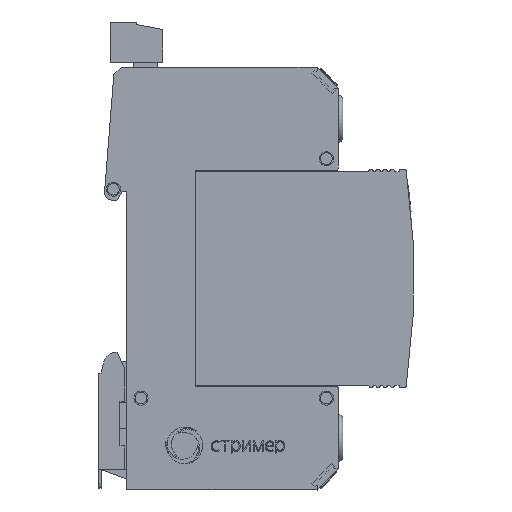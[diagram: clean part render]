
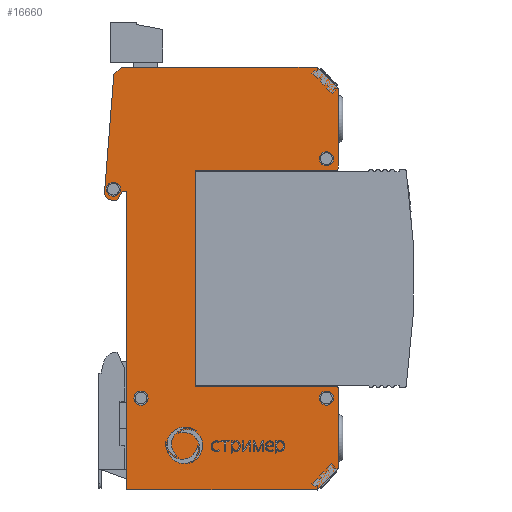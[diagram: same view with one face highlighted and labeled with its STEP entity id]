
A CAD part, front view. The second image highlights one B-rep face of the part: STEP entity #16660.
In plain terms, the highlighted planar face has unit normal (0, -1, 0).
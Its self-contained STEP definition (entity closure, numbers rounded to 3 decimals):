
#14860=CARTESIAN_POINT('',(-14.5,-9.,-45.));
#14861=VERTEX_POINT('',#14860);
#14862=CARTESIAN_POINT('',(26.,-9.,-45.));
#14863=VERTEX_POINT('',#14862);
#14864=CARTESIAN_POINT('',(-14.5,-9.,-45.));
#14865=DIRECTION('',(1.,0.,-0.));
#14866=VECTOR('',#14865,40.5);
#14867=LINE('',#14864,#14866);
#14868=EDGE_CURVE('',#14861,#14863,#14867,.T.);
#15530=CARTESIAN_POINT('',(-14.5,-9.,18.5));
#15531=VERTEX_POINT('',#15530);
#15532=CARTESIAN_POINT('',(-14.5,-9.,18.5));
#15533=DIRECTION('',(0.,0.,-1.));
#15534=VECTOR('',#15533,63.5);
#15535=LINE('',#15532,#15534);
#15536=EDGE_CURVE('',#15531,#14861,#15535,.T.);
#15731=CARTESIAN_POINT('',(-15.5,-9.,45.));
#15732=VERTEX_POINT('',#15731);
#15733=CARTESIAN_POINT('',(-17.29,-9.,43.498));
#15734=VERTEX_POINT('',#15733);
#15735=CARTESIAN_POINT('',(-15.5,-9.,45.));
#15736=DIRECTION('',(-0.766,0.,-0.643));
#15737=VECTOR('',#15736,2.337);
#15738=LINE('',#15735,#15737);
#15739=EDGE_CURVE('',#15732,#15734,#15738,.T.);
#15771=CARTESIAN_POINT('',(-19.273,-9.,18.306));
#15772=VERTEX_POINT('',#15771);
#15773=CARTESIAN_POINT('',(-17.29,-9.,43.498));
#15774=DIRECTION('',(-0.078,0.,-0.997));
#15775=VECTOR('',#15774,25.27);
#15776=LINE('',#15773,#15775);
#15777=EDGE_CURVE('',#15734,#15772,#15776,.T.);
#15802=CARTESIAN_POINT('',(-17.999,-9.,16.704));
#15803=VERTEX_POINT('',#15802);
#15804=CARTESIAN_POINT('',(-17.777,-9.,18.188));
#15805=DIRECTION('',(0.,-1.,0.));
#15806=DIRECTION('',(0.,0.,1.));
#15807=AXIS2_PLACEMENT_3D('',#15804,#15805,#15806);
#15808=CIRCLE('',#15807,1.5);
#15809=EDGE_CURVE('',#15772,#15803,#15808,.T.);
#15835=CARTESIAN_POINT('',(-16.632,-9.,16.5));
#15836=VERTEX_POINT('',#15835);
#15837=CARTESIAN_POINT('',(-17.999,-9.,16.704));
#15838=DIRECTION('',(0.989,0.,-0.148));
#15839=VECTOR('',#15838,1.383);
#15840=LINE('',#15837,#15839);
#15841=EDGE_CURVE('',#15803,#15836,#15840,.T.);
#15866=CARTESIAN_POINT('',(-15.5,-9.,18.5));
#15867=VERTEX_POINT('',#15866);
#15868=CARTESIAN_POINT('',(-16.632,-9.,16.5));
#15869=DIRECTION('',(0.492,0.,0.87));
#15870=VECTOR('',#15869,2.298);
#15871=LINE('',#15868,#15870);
#15872=EDGE_CURVE('',#15836,#15867,#15871,.T.);
#15897=CARTESIAN_POINT('',(-15.5,-9.,18.5));
#15898=DIRECTION('',(1.,0.,0.));
#15899=VECTOR('',#15898,1.);
#15900=LINE('',#15897,#15899);
#15901=EDGE_CURVE('',#15867,#15531,#15900,.T.);
#15919=CARTESIAN_POINT('',(30.5,-9.,-40.5));
#15920=VERTEX_POINT('',#15919);
#15921=CARTESIAN_POINT('',(26.,-9.,-45.));
#15922=DIRECTION('',(0.707,0.,0.707));
#15923=VECTOR('',#15922,6.364);
#15924=LINE('',#15921,#15923);
#15925=EDGE_CURVE('',#14863,#15920,#15924,.T.);
#15970=CARTESIAN_POINT('',(30.5,-9.,-23.5));
#15971=VERTEX_POINT('',#15970);
#15972=CARTESIAN_POINT('',(30.5,-9.,-40.5));
#15973=DIRECTION('',(0.,0.,1.));
#15974=VECTOR('',#15973,17.);
#15975=LINE('',#15972,#15974);
#15976=EDGE_CURVE('',#15920,#15971,#15975,.T.);
#16001=CARTESIAN_POINT('',(30.,-9.,-23.));
#16002=VERTEX_POINT('',#16001);
#16003=CARTESIAN_POINT('',(30.,-9.,-23.5));
#16004=DIRECTION('',(0.,-1.,0.));
#16005=DIRECTION('',(0.,0.,1.));
#16006=AXIS2_PLACEMENT_3D('',#16003,#16004,#16005);
#16007=CIRCLE('',#16006,0.5);
#16008=EDGE_CURVE('',#15971,#16002,#16007,.T.);
#16034=CARTESIAN_POINT('',(0.,-9.,-23.));
#16035=VERTEX_POINT('',#16034);
#16036=CARTESIAN_POINT('',(30.,-9.,-23.));
#16037=DIRECTION('',(-1.,0.,0.));
#16038=VECTOR('',#16037,30.);
#16039=LINE('',#16036,#16038);
#16040=EDGE_CURVE('',#16002,#16035,#16039,.T.);
#16065=CARTESIAN_POINT('',(0.,-9.,23.));
#16066=VERTEX_POINT('',#16065);
#16067=CARTESIAN_POINT('',(0.,-9.,-23.));
#16068=DIRECTION('',(0.,0.,1.));
#16069=VECTOR('',#16068,46.);
#16070=LINE('',#16067,#16069);
#16071=EDGE_CURVE('',#16035,#16066,#16070,.T.);
#16096=CARTESIAN_POINT('',(30.,-9.,23.));
#16097=VERTEX_POINT('',#16096);
#16098=CARTESIAN_POINT('',(0.,-9.,23.));
#16099=DIRECTION('',(1.,0.,0.));
#16100=VECTOR('',#16099,30.);
#16101=LINE('',#16098,#16100);
#16102=EDGE_CURVE('',#16066,#16097,#16101,.T.);
#16127=CARTESIAN_POINT('',(30.5,-9.,23.5));
#16128=VERTEX_POINT('',#16127);
#16129=CARTESIAN_POINT('',(30.,-9.,23.5));
#16130=DIRECTION('',(0.,-1.,0.));
#16131=DIRECTION('',(0.,0.,1.));
#16132=AXIS2_PLACEMENT_3D('',#16129,#16130,#16131);
#16133=CIRCLE('',#16132,0.5);
#16134=EDGE_CURVE('',#16097,#16128,#16133,.T.);
#16180=CARTESIAN_POINT('',(30.5,-9.,40.5));
#16181=VERTEX_POINT('',#16180);
#16182=CARTESIAN_POINT('',(30.5,-9.,23.5));
#16183=DIRECTION('',(0.,0.,1.));
#16184=VECTOR('',#16183,17.);
#16185=LINE('',#16182,#16184);
#16186=EDGE_CURVE('',#16128,#16181,#16185,.T.);
#16211=CARTESIAN_POINT('',(26.,-9.,45.));
#16212=VERTEX_POINT('',#16211);
#16213=CARTESIAN_POINT('',(30.5,-9.,40.5));
#16214=DIRECTION('',(-0.707,0.,0.707));
#16215=VECTOR('',#16214,6.364);
#16216=LINE('',#16213,#16215);
#16217=EDGE_CURVE('',#16181,#16212,#16216,.T.);
#16242=CARTESIAN_POINT('',(-17.38,-9.,17.5));
#16243=VERTEX_POINT('',#16242);
#16252=CARTESIAN_POINT('',(-18.88,-9.,19.));
#16253=VERTEX_POINT('',#16252);
#16254=CARTESIAN_POINT('',(-17.38,-9.,19.));
#16255=DIRECTION('',(0.,-1.,0.));
#16256=DIRECTION('',(-1.,0.,0.));
#16257=AXIS2_PLACEMENT_3D('',#16254,#16255,#16256);
#16258=CIRCLE('',#16257,1.5);
#16259=EDGE_CURVE('',#16243,#16253,#16258,.T.);
#16284=CARTESIAN_POINT('',(28.,-9.,24.));
#16285=VERTEX_POINT('',#16284);
#16294=CARTESIAN_POINT('',(26.5,-9.,25.5));
#16295=VERTEX_POINT('',#16294);
#16296=CARTESIAN_POINT('',(28.,-9.,25.5));
#16297=DIRECTION('',(0.,-1.,0.));
#16298=DIRECTION('',(-1.,0.,0.));
#16299=AXIS2_PLACEMENT_3D('',#16296,#16297,#16298);
#16300=CIRCLE('',#16299,1.5);
#16301=EDGE_CURVE('',#16285,#16295,#16300,.T.);
#16326=CARTESIAN_POINT('',(-11.5,-9.,-27.));
#16327=VERTEX_POINT('',#16326);
#16336=CARTESIAN_POINT('',(-13.,-9.,-25.5));
#16337=VERTEX_POINT('',#16336);
#16338=CARTESIAN_POINT('',(-11.5,-9.,-25.5));
#16339=DIRECTION('',(0.,-1.,0.));
#16340=DIRECTION('',(-1.,0.,0.));
#16341=AXIS2_PLACEMENT_3D('',#16338,#16339,#16340);
#16342=CIRCLE('',#16341,1.5);
#16343=EDGE_CURVE('',#16327,#16337,#16342,.T.);
#16368=CARTESIAN_POINT('',(28.,-9.,-27.));
#16369=VERTEX_POINT('',#16368);
#16378=CARTESIAN_POINT('',(26.5,-9.,-25.5));
#16379=VERTEX_POINT('',#16378);
#16380=CARTESIAN_POINT('',(28.,-9.,-25.5));
#16381=DIRECTION('',(0.,-1.,0.));
#16382=DIRECTION('',(-1.,0.,0.));
#16383=AXIS2_PLACEMENT_3D('',#16380,#16381,#16382);
#16384=CIRCLE('',#16383,1.5);
#16385=EDGE_CURVE('',#16369,#16379,#16384,.T.);
#16512=CARTESIAN_POINT('',(26.,-9.,45.));
#16513=DIRECTION('',(-1.,0.,0.));
#16514=VECTOR('',#16513,41.5);
#16515=LINE('',#16512,#16514);
#16516=EDGE_CURVE('',#16212,#15732,#16515,.T.);
#16595=CARTESIAN_POINT('',(0.,-9.,0.));
#16596=DIRECTION('',(0.,-1.,0.));
#16597=DIRECTION('',(0.,0.,1.));
#16598=AXIS2_PLACEMENT_3D('',#16595,#16596,#16597);
#16599=PLANE('',#16598);
#16600=ORIENTED_EDGE('',*,*,#16385,.F.);
#16601=CARTESIAN_POINT('',(28.,-9.,-25.5));
#16602=DIRECTION('',(0.,-1.,0.));
#16603=DIRECTION('',(-1.,0.,0.));
#16604=AXIS2_PLACEMENT_3D('',#16601,#16602,#16603);
#16605=CIRCLE('',#16604,1.5);
#16606=EDGE_CURVE('',#16379,#16369,#16605,.T.);
#16607=ORIENTED_EDGE('',*,*,#16606,.F.);
#16608=EDGE_LOOP('',(#16600,#16607));
#16609=FACE_BOUND('',#16608,.T.);
#16610=ORIENTED_EDGE('',*,*,#16343,.F.);
#16611=CARTESIAN_POINT('',(-11.5,-9.,-25.5));
#16612=DIRECTION('',(0.,-1.,0.));
#16613=DIRECTION('',(-1.,0.,0.));
#16614=AXIS2_PLACEMENT_3D('',#16611,#16612,#16613);
#16615=CIRCLE('',#16614,1.5);
#16616=EDGE_CURVE('',#16337,#16327,#16615,.T.);
#16617=ORIENTED_EDGE('',*,*,#16616,.F.);
#16618=EDGE_LOOP('',(#16610,#16617));
#16619=FACE_BOUND('',#16618,.T.);
#16620=ORIENTED_EDGE('',*,*,#16301,.F.);
#16621=CARTESIAN_POINT('',(28.,-9.,25.5));
#16622=DIRECTION('',(0.,-1.,0.));
#16623=DIRECTION('',(-1.,0.,0.));
#16624=AXIS2_PLACEMENT_3D('',#16621,#16622,#16623);
#16625=CIRCLE('',#16624,1.5);
#16626=EDGE_CURVE('',#16295,#16285,#16625,.T.);
#16627=ORIENTED_EDGE('',*,*,#16626,.F.);
#16628=EDGE_LOOP('',(#16620,#16627));
#16629=FACE_BOUND('',#16628,.T.);
#16630=ORIENTED_EDGE('',*,*,#16259,.F.);
#16631=CARTESIAN_POINT('',(-17.38,-9.,19.));
#16632=DIRECTION('',(0.,-1.,0.));
#16633=DIRECTION('',(-1.,0.,0.));
#16634=AXIS2_PLACEMENT_3D('',#16631,#16632,#16633);
#16635=CIRCLE('',#16634,1.5);
#16636=EDGE_CURVE('',#16253,#16243,#16635,.T.);
#16637=ORIENTED_EDGE('',*,*,#16636,.F.);
#16638=EDGE_LOOP('',(#16630,#16637));
#16639=FACE_BOUND('',#16638,.T.);
#16640=ORIENTED_EDGE('',*,*,#15739,.T.);
#16641=ORIENTED_EDGE('',*,*,#15777,.T.);
#16642=ORIENTED_EDGE('',*,*,#15809,.T.);
#16643=ORIENTED_EDGE('',*,*,#15841,.T.);
#16644=ORIENTED_EDGE('',*,*,#15872,.T.);
#16645=ORIENTED_EDGE('',*,*,#15901,.T.);
#16646=ORIENTED_EDGE('',*,*,#15536,.T.);
#16647=ORIENTED_EDGE('',*,*,#14868,.T.);
#16648=ORIENTED_EDGE('',*,*,#15925,.T.);
#16649=ORIENTED_EDGE('',*,*,#15976,.T.);
#16650=ORIENTED_EDGE('',*,*,#16008,.T.);
#16651=ORIENTED_EDGE('',*,*,#16040,.T.);
#16652=ORIENTED_EDGE('',*,*,#16071,.T.);
#16653=ORIENTED_EDGE('',*,*,#16102,.T.);
#16654=ORIENTED_EDGE('',*,*,#16134,.T.);
#16655=ORIENTED_EDGE('',*,*,#16186,.T.);
#16656=ORIENTED_EDGE('',*,*,#16217,.T.);
#16657=ORIENTED_EDGE('',*,*,#16516,.T.);
#16658=EDGE_LOOP('',(#16640,#16641,#16642,#16643,#16644,#16645,#16646,#16647,#16648,#16649,#16650,#16651,#16652,#16653,#16654,#16655,#16656,#16657));
#16659=FACE_BOUND('',#16658,.T.);
#16660=ADVANCED_FACE('',(#16609,#16619,#16629,#16639,#16659),#16599,.T.);
